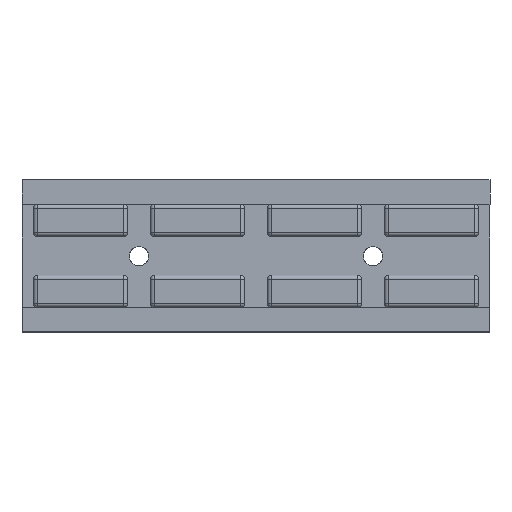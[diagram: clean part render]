
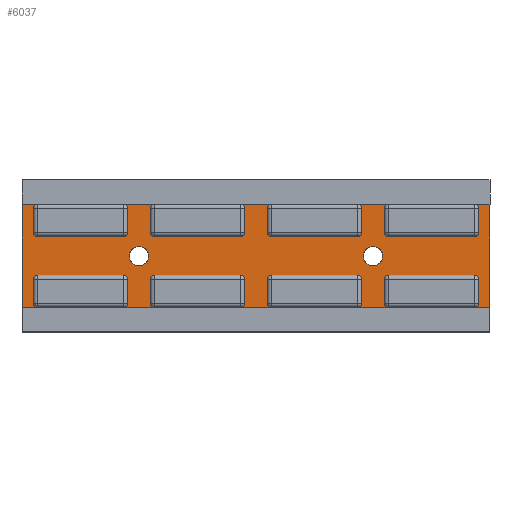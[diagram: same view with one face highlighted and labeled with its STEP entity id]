
A CAD part, top view. The second image highlights one B-rep face of the part: STEP entity #6037.
In plain terms, the highlighted planar face has unit normal (0, 0, 1).
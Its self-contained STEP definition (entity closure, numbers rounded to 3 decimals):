
#36 = VERTEX_POINT ( 'NONE', #8434 ) ;
#345 = AXIS2_PLACEMENT_3D ( 'NONE', #11336, #3269, #8327 ) ;
#581 = EDGE_LOOP ( 'NONE', ( #1962, #9241, #3573, #4842 ) ) ;
#629 = AXIS2_PLACEMENT_3D ( 'NONE', #10832, #6789, #6707 ) ;
#841 = CARTESIAN_POINT ( 'NONE',  ( -1.708, 16.663, 6.3 ) ) ;
#849 = ORIENTED_EDGE ( 'NONE', *, *, #6049, .F. ) ;
#1152 = CARTESIAN_POINT ( 'NONE',  ( -34.208, 3.463, 6.3 ) ) ;
#1352 = CIRCLE ( 'NONE', #345, 2.5 ) ;
#1461 = CARTESIAN_POINT ( 'NONE',  ( -34.208, 29.863, 6.3 ) ) ;
#1777 = CARTESIAN_POINT ( 'NONE',  ( 25.792, 16.663, 6.3 ) ) ;
#1810 = FACE_BOUND ( 'NONE', #12529, .T. ) ;
#1848 = VERTEX_POINT ( 'NONE', #6944 ) ;
#1962 = ORIENTED_EDGE ( 'NONE', *, *, #8672, .T. ) ;
#2028 = EDGE_CURVE ( 'NONE', #1848, #2903, #4972, .T. ) ;
#2041 = DIRECTION ( 'NONE',  ( 1., 0., 0. ) ) ;
#2077 = CARTESIAN_POINT ( 'NONE',  ( 55.792, 16.663, 6.3 ) ) ;
#2835 = CARTESIAN_POINT ( 'NONE',  ( 58.292, 16.663, 6.3 ) ) ;
#2903 = VERTEX_POINT ( 'NONE', #6168 ) ;
#2932 = EDGE_CURVE ( 'NONE', #12532, #5647, #9737, .T. ) ;
#2965 = VECTOR ( 'NONE', #12155, 1000. ) ;
#3241 = AXIS2_PLACEMENT_3D ( 'NONE', #6087, #9301, #11329 ) ;
#3269 = DIRECTION ( 'NONE',  ( 0., 0., 1. ) ) ;
#3573 = ORIENTED_EDGE ( 'NONE', *, *, #7903, .T. ) ;
#4020 = VERTEX_POINT ( 'NONE', #11045 ) ;
#4328 = CARTESIAN_POINT ( 'NONE',  ( -6.708, 16.663, 6.3 ) ) ;
#4701 = DIRECTION ( 'NONE',  ( 0., 0., 1. ) ) ;
#4831 = EDGE_CURVE ( 'NONE', #12684, #36, #1352, .T. ) ;
#4842 = ORIENTED_EDGE ( 'NONE', *, *, #2028, .T. ) ;
#4972 = LINE ( 'NONE', #1152, #9237 ) ;
#5183 = DIRECTION ( 'NONE',  ( 1., 0., 0. ) ) ;
#5406 = ORIENTED_EDGE ( 'NONE', *, *, #2932, .F. ) ;
#5440 = FACE_OUTER_BOUND ( 'NONE', #581, .T. ) ;
#5597 = FACE_BOUND ( 'NONE', #9684, .T. ) ;
#5647 = VERTEX_POINT ( 'NONE', #841 ) ;
#5855 = CARTESIAN_POINT ( 'NONE',  ( -34.208, 29.863, 6.3 ) ) ;
#6037 = ADVANCED_FACE ( 'NONE', ( #1810, #5597, #5440 ), #6613, .T. ) ;
#6049 = EDGE_CURVE ( 'NONE', #5647, #12532, #10504, .T. ) ;
#6087 = CARTESIAN_POINT ( 'NONE',  ( -4.208, 16.663, 6.3 ) ) ;
#6168 = CARTESIAN_POINT ( 'NONE',  ( 85.792, 3.463, 6.3 ) ) ;
#6613 = PLANE ( 'NONE',  #11678 ) ;
#6700 = LINE ( 'NONE', #5855, #9082 ) ;
#6707 = DIRECTION ( 'NONE',  ( 1., 0., 0. ) ) ;
#6789 = DIRECTION ( 'NONE',  ( 0., 0., 1. ) ) ;
#6944 = CARTESIAN_POINT ( 'NONE',  ( -34.208, 3.463, 6.3 ) ) ;
#7242 = CARTESIAN_POINT ( 'NONE',  ( 85.792, 29.863, 6.3 ) ) ;
#7828 = LINE ( 'NONE', #7242, #2965 ) ;
#7903 = EDGE_CURVE ( 'NONE', #13029, #1848, #6700, .T. ) ;
#8002 = CIRCLE ( 'NONE', #8812, 2.5 ) ;
#8169 = DIRECTION ( 'NONE',  ( 0., 0., 1. ) ) ;
#8327 = DIRECTION ( 'NONE',  ( 1., 0., 0. ) ) ;
#8366 = EDGE_CURVE ( 'NONE', #4020, #13029, #11815, .T. ) ;
#8434 = CARTESIAN_POINT ( 'NONE',  ( 53.292, 16.663, 6.3 ) ) ;
#8672 = EDGE_CURVE ( 'NONE', #2903, #4020, #7828, .T. ) ;
#8812 = AXIS2_PLACEMENT_3D ( 'NONE', #2077, #8169, #2041 ) ;
#9082 = VECTOR ( 'NONE', #10899, 1000. ) ;
#9237 = VECTOR ( 'NONE', #5183, 1000. ) ;
#9241 = ORIENTED_EDGE ( 'NONE', *, *, #8366, .T. ) ;
#9301 = DIRECTION ( 'NONE',  ( 0., 0., 1. ) ) ;
#9460 = VECTOR ( 'NONE', #9473, 1000. ) ;
#9473 = DIRECTION ( 'NONE',  ( -1., 0., 0. ) ) ;
#9684 = EDGE_LOOP ( 'NONE', ( #12840, #10165 ) ) ;
#9737 = CIRCLE ( 'NONE', #3241, 2.5 ) ;
#10165 = ORIENTED_EDGE ( 'NONE', *, *, #11079, .F. ) ;
#10504 = CIRCLE ( 'NONE', #629, 2.5 ) ;
#10832 = CARTESIAN_POINT ( 'NONE',  ( -4.208, 16.663, 6.3 ) ) ;
#10899 = DIRECTION ( 'NONE',  ( 0., -1., 0. ) ) ;
#11045 = CARTESIAN_POINT ( 'NONE',  ( 85.792, 29.863, 6.3 ) ) ;
#11079 = EDGE_CURVE ( 'NONE', #36, #12684, #8002, .T. ) ;
#11329 = DIRECTION ( 'NONE',  ( 1., 0., 0. ) ) ;
#11336 = CARTESIAN_POINT ( 'NONE',  ( 55.792, 16.663, 6.3 ) ) ;
#11540 = CARTESIAN_POINT ( 'NONE',  ( -34.208, 29.863, 6.3 ) ) ;
#11678 = AXIS2_PLACEMENT_3D ( 'NONE', #1777, #4701, #12823 ) ;
#11815 = LINE ( 'NONE', #1461, #9460 ) ;
#12155 = DIRECTION ( 'NONE',  ( 0., 1., 0. ) ) ;
#12529 = EDGE_LOOP ( 'NONE', ( #849, #5406 ) ) ;
#12532 = VERTEX_POINT ( 'NONE', #4328 ) ;
#12684 = VERTEX_POINT ( 'NONE', #2835 ) ;
#12823 = DIRECTION ( 'NONE',  ( 1., 0., 0. ) ) ;
#12840 = ORIENTED_EDGE ( 'NONE', *, *, #4831, .F. ) ;
#13029 = VERTEX_POINT ( 'NONE', #11540 ) ;
